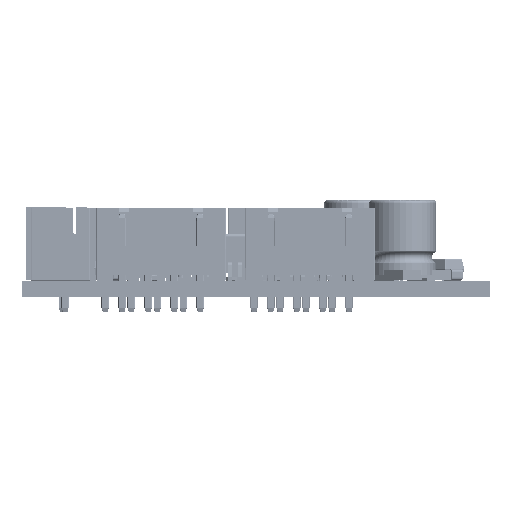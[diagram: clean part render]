
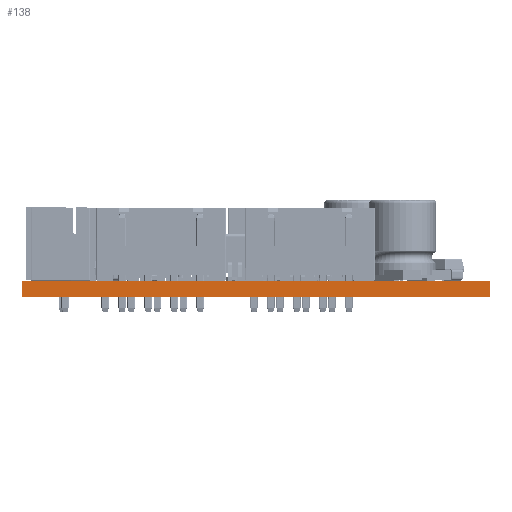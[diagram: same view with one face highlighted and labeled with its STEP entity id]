
A CAD part, left-side view. The second image highlights one B-rep face of the part: STEP entity #138.
In plain terms, the highlighted planar face has unit normal (-1, 0, 0).
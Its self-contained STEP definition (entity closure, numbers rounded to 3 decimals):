
#113 = VERTEX_POINT('',#114);
#114 = CARTESIAN_POINT('',(8.255,6.489,1.6)  );
#120 = EDGE_CURVE('',#121,#113,#123,.T.);
#121 = VERTEX_POINT('',#122);
#122 = CARTESIAN_POINT('',(8.255,6.489,0.));
#123 = LINE('',#124,#125);
#124 = CARTESIAN_POINT('',(8.255,6.489,0.));
#125 = VECTOR('',#126,1.);
#126 = DIRECTION('',(0.,0.,1.));
#138 = ADVANCED_FACE('',(#139),#164,.T.);
#139 = FACE_BOUND('',#140,.T.);
#140 = EDGE_LOOP('',(#141,#142,#150,#158));
#141 = ORIENTED_EDGE('',*,*,#120,.T.);
#142 = ORIENTED_EDGE('',*,*,#143,.T.);
#143 = EDGE_CURVE('',#113,#144,#146,.T.);
#144 = VERTEX_POINT('',#145);
#145 = CARTESIAN_POINT('',(8.255,51.464,1.6    ));
#146 = LINE('',#147,#148);
#147 = CARTESIAN_POINT('',(8.255,6.489,1.6)  );
#148 = VECTOR('',#149,1.);
#149 = DIRECTION('',(0.,1.,0.));
#150 = ORIENTED_EDGE('',*,*,#151,.F.);
#151 = EDGE_CURVE('',#152,#144,#154,.T.);
#152 = VERTEX_POINT('',#153);
#153 = CARTESIAN_POINT('',(8.255,51.464,0.));
#154 = LINE('',#155,#156);
#155 = CARTESIAN_POINT('',(8.255,51.464,0.));
#156 = VECTOR('',#157,1.);
#157 = DIRECTION('',(0.,0.,1.));
#158 = ORIENTED_EDGE('',*,*,#159,.F.);
#159 = EDGE_CURVE('',#121,#152,#160,.T.);
#160 = LINE('',#161,#162);
#161 = CARTESIAN_POINT('',(8.255,6.489,0.));
#162 = VECTOR('',#163,1.);
#163 = DIRECTION('',(0.,1.,0.));
#164 = PLANE('',#165);
#165 = AXIS2_PLACEMENT_3D('',#166,#167,#168);
#166 = CARTESIAN_POINT('',(8.255,6.489,0.));
#167 = DIRECTION('',(-1.,0.,0.));
#168 = DIRECTION('',(0.,1.,0.));
